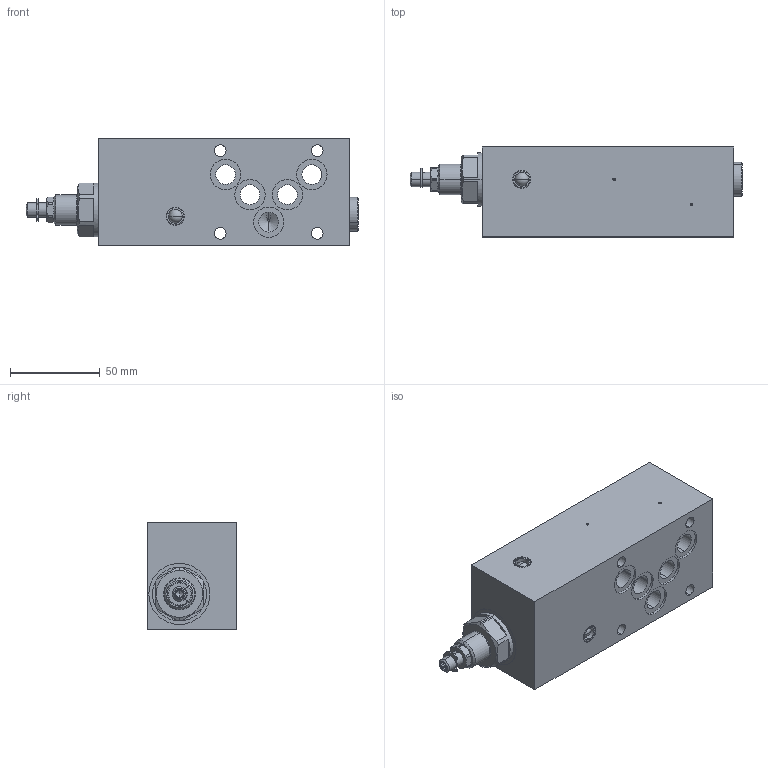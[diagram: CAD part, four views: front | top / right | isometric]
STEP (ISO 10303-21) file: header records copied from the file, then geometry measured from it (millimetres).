
FILE_DESCRIPTION (( 'STEP AP214' ), '1' );
FILE_NAME ('MVSSA10-P.STEP', '2017-03-23T06:17:29', ( '' ), ( '' ), 'SwSTEP 2.0', 'SolidWorks 2016', '' );
FILE_SCHEMA (( 'AUTOMOTIVE_DESIGN' ));
Length unit declared in the file: millimetre
Products named in the file (1): MVSSA10-P
Bounding box: 184.8 x 50 x 60 mm (x, y, z)
Volume: 400190.9 mm3; surface area: 56411.1 mm2
Topology: 6 solids, 10 shells, 297 faces, 708 edges, 431 vertices
Faces by surface type: cylinder 120, cone 80, plane 77, sphere 16, torus 4
Entity records: 12147 total; most frequent: CARTESIAN_POINT 1918, DIRECTION 1554, ORIENTED_EDGE 1364, EDGE_CURVE 682, AXIS2_PLACEMENT_3D 637, VERTEX_POINT 431, EDGE_LOOP 341, CIRCLE 339
